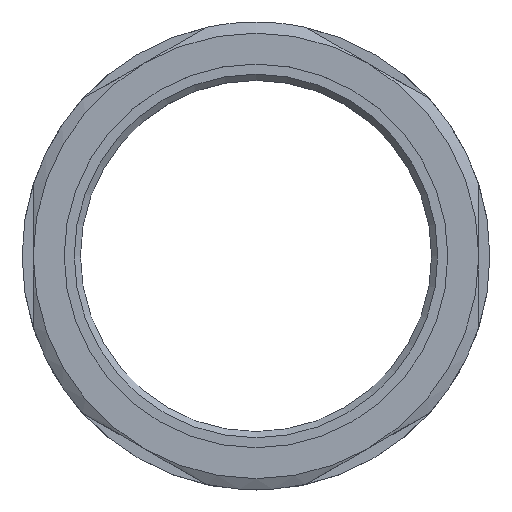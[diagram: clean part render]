
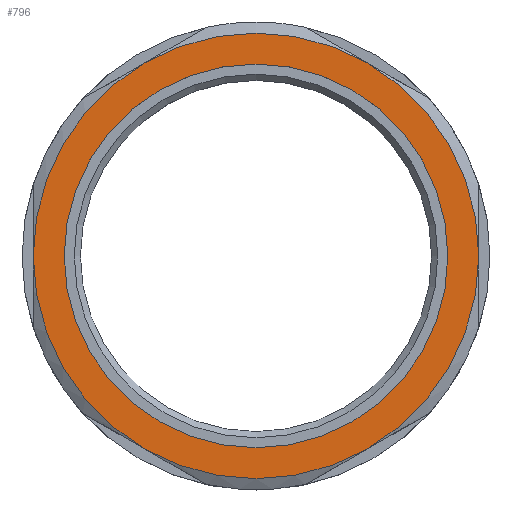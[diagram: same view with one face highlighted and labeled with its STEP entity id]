
A CAD part, top view. The second image highlights one B-rep face of the part: STEP entity #796.
In plain terms, the highlighted planar face has unit normal (0, 0, 1).
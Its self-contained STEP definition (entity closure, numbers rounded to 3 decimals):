
#181=CARTESIAN_POINT('',(9.,15.588,7.8));
#182=VERTEX_POINT('',#181);
#198=CARTESIAN_POINT('',(18.,0.,7.8));
#199=VERTEX_POINT('',#198);
#200=CARTESIAN_POINT('',(0.0,0.0,7.8));
#201=DIRECTION('',(0.0,0.0,1.0));
#202=DIRECTION('',(0.0,-1.0,0.0));
#203=AXIS2_PLACEMENT_3D('',#200,#201,#202);
#204=CIRCLE('',#203,18.0);
#205=EDGE_CURVE('',#199,#182,#204,.T.);
#239=CARTESIAN_POINT('',(9.,-15.588,7.8));
#240=VERTEX_POINT('',#239);
#276=CARTESIAN_POINT('',(0.0,0.0,7.8));
#277=DIRECTION('',(0.0,0.0,1.0));
#278=DIRECTION('',(0.0,-1.0,0.0));
#279=AXIS2_PLACEMENT_3D('',#276,#277,#278);
#280=CIRCLE('',#279,18.0);
#281=EDGE_CURVE('',#240,#199,#280,.T.);
#291=CARTESIAN_POINT('',(-9.,15.588,7.8));
#292=VERTEX_POINT('',#291);
#308=CARTESIAN_POINT('',(0.0,0.0,7.8));
#309=DIRECTION('',(0.0,0.0,1.0));
#310=DIRECTION('',(0.0,-1.0,0.0));
#311=AXIS2_PLACEMENT_3D('',#308,#309,#310);
#312=CIRCLE('',#311,18.0);
#313=EDGE_CURVE('',#182,#292,#312,.T.);
#345=CARTESIAN_POINT('',(-18.,0.,7.8));
#346=VERTEX_POINT('',#345);
#362=CARTESIAN_POINT('',(0.0,0.0,7.8));
#363=DIRECTION('',(0.0,0.0,1.0));
#364=DIRECTION('',(0.0,-1.0,0.0));
#365=AXIS2_PLACEMENT_3D('',#362,#363,#364);
#366=CIRCLE('',#365,18.0);
#367=EDGE_CURVE('',#292,#346,#366,.T.);
#399=CARTESIAN_POINT('',(-9.,-15.588,7.8));
#400=VERTEX_POINT('',#399);
#416=CARTESIAN_POINT('',(0.0,0.0,7.8));
#417=DIRECTION('',(0.0,0.0,1.0));
#418=DIRECTION('',(0.0,-1.0,0.0));
#419=AXIS2_PLACEMENT_3D('',#416,#417,#418);
#420=CIRCLE('',#419,18.0);
#421=EDGE_CURVE('',#346,#400,#420,.T.);
#490=CARTESIAN_POINT('',(0.0,0.0,7.8));
#491=DIRECTION('',(0.0,0.0,1.0));
#492=DIRECTION('',(0.0,-1.0,0.0));
#493=AXIS2_PLACEMENT_3D('',#490,#491,#492);
#494=CIRCLE('',#493,18.0);
#495=EDGE_CURVE('',#400,#240,#494,.T.);
#772=CARTESIAN_POINT('',(0.0,17.2,7.8));
#773=DIRECTION('',(0.0,0.0,1.0));
#774=DIRECTION('',(1.0,0.0,0.0));
#775=AXIS2_PLACEMENT_3D('',#772,#773,#774);
#776=PLANE('',#775);
#777=ORIENTED_EDGE('',*,*,#205,.T.);
#778=ORIENTED_EDGE('',*,*,#313,.T.);
#779=ORIENTED_EDGE('',*,*,#367,.T.);
#780=ORIENTED_EDGE('',*,*,#421,.T.);
#781=ORIENTED_EDGE('',*,*,#495,.T.);
#782=ORIENTED_EDGE('',*,*,#281,.T.);
#783=EDGE_LOOP('',(#777,#778,#779,#780,#781,#782));
#784=FACE_OUTER_BOUND('',#783,.T.);
#785=CARTESIAN_POINT('',(0.0,15.5,7.8));
#786=VERTEX_POINT('',#785);
#787=CARTESIAN_POINT('',(0.0,0.0,7.8));
#788=DIRECTION('',(0.0,0.0,-1.0));
#789=DIRECTION('',(0.0,1.0,0.0));
#790=AXIS2_PLACEMENT_3D('',#787,#788,#789);
#791=CIRCLE('',#790,15.5);
#792=EDGE_CURVE('',#786,#786,#791,.T.);
#793=ORIENTED_EDGE('',*,*,#792,.T.);
#794=EDGE_LOOP('',(#793));
#795=FACE_BOUND('',#794,.T.);
#796=ADVANCED_FACE('',(#784,#795),#776,.T.);
